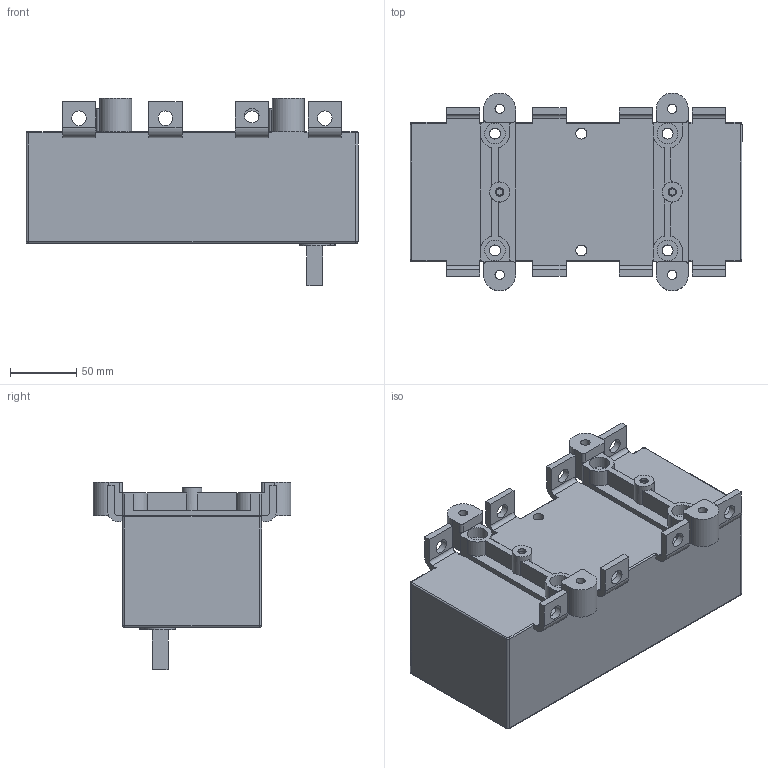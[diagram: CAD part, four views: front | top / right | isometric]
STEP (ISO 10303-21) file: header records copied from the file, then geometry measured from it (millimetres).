
FILE_DESCRIPTION(/* description */ (''),/* implementation_level */ '2;1');
FILE_NAME(/* name */ 'RA630 P3 NC.stp',/* time_stamp */ '2021-08-19T08:50:06+02:00',/* author */ (''),/* organization */ (''),/* preprocessor_version */ 'ST-DEVELOPER v18.1',/* originating_system */ 'SIEMENS PLM Software NX 1965',/* authorisation */ '');
FILE_SCHEMA (('AUTOMOTIVE_DESIGN { 1 0 10303 214 3 1 1 1 }'));
Length unit declared in the file: millimetre
Products named in the file (1): RA630 P3 NC_stp
Bounding box: 250 x 149 x 141 mm (x, y, z)
Volume: 2290026.5 mm3; surface area: 165565.3 mm2
Topology: 1 solids, 1 shells, 226 faces, 612 edges, 402 vertices
Faces by surface type: plane 112, cylinder 106, torus 5, bspline 3
Full cylindrical faces by diameter (mm): 4.8 x2, 6.2 x2, 7 x4, 8.2 x6, 11 x8, 14 x4, 15 x2, 15.5 x4
Entity records: 7109 total; most frequent: CARTESIAN_POINT 1268, DIRECTION 1248, ORIENTED_EDGE 1152, EDGE_CURVE 576, AXIS2_PLACEMENT_3D 450, VERTEX_POINT 398, LINE 348, VECTOR 348
